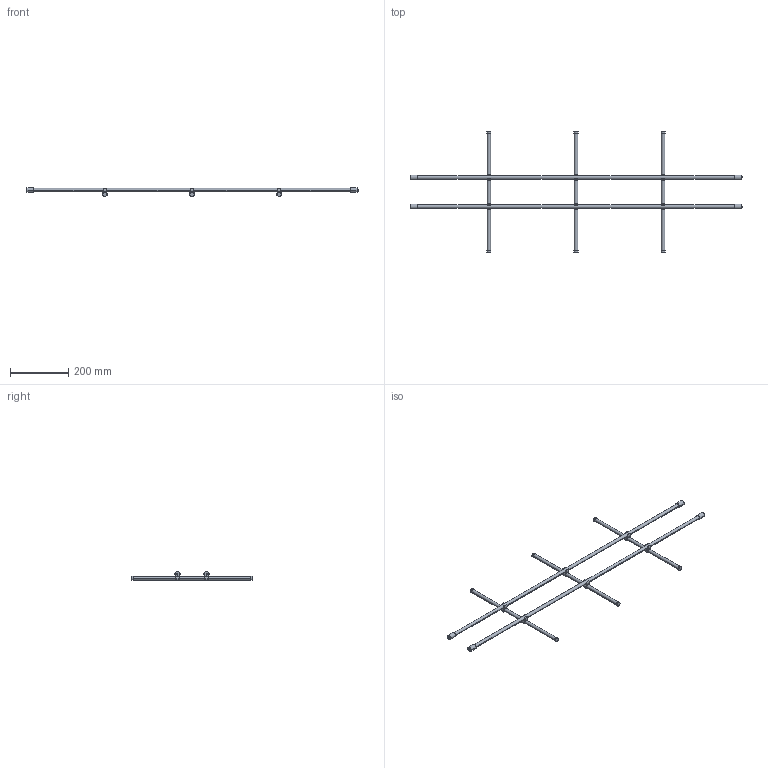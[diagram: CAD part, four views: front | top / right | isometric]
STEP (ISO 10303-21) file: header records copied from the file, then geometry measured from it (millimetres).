
FILE_DESCRIPTION (( 'STEP AP214' ), '1' );
FILE_NAME ('Magic-Classic_NL-450-KAB 1200.step', '2010-09-16T12:49:36', ( 'grass' ), ( '' ), 'SwSTEP 2.0', 'SolidWorks 2010', '' );
FILE_SCHEMA (( 'AUTOMOTIVE_DESIGN' ));
Length unit declared in the file: millimetre
Products named in the file (1): Magic-Classic_NL-450-KAB 1200
Bounding box: 1143 x 415 x 30.45 mm (x, y, z)
Volume: 423349.3 mm3; surface area: 140941.8 mm2
Topology: 1 solids, 1 shells, 190 faces, 534 edges, 356 vertices
Faces by surface type: plane 104, cylinder 86
Entity records: 6260 total; most frequent: DIRECTION 1136, CARTESIAN_POINT 1081, ORIENTED_EDGE 1068, EDGE_CURVE 534, AXIS2_PLACEMENT_3D 411, VERTEX_POINT 356, VECTOR 314, LINE 314
